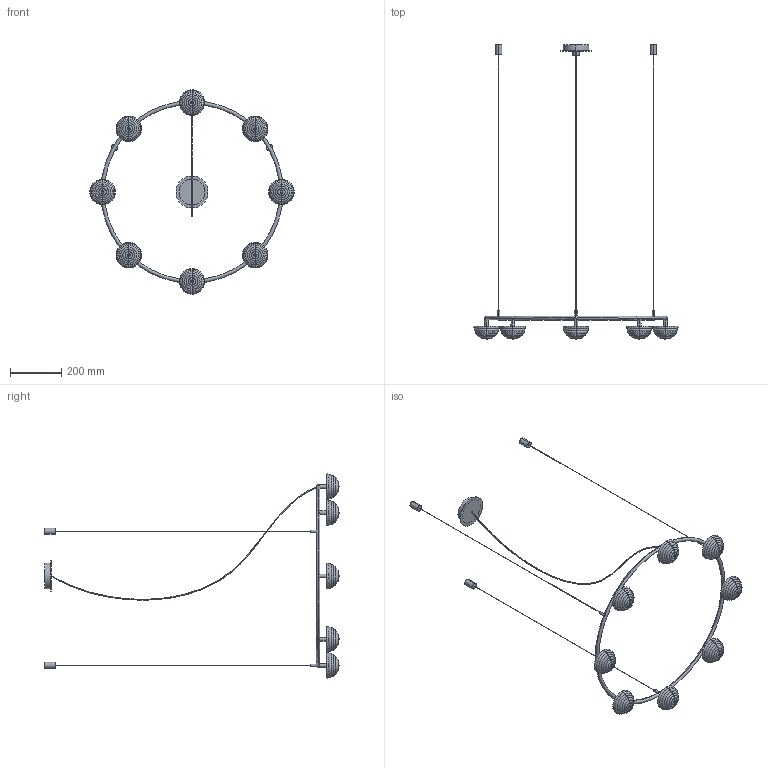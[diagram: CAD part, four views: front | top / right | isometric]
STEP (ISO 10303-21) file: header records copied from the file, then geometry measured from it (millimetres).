
FILE_DESCRIPTION (( 'STEP AP214' ), '1' );
FILE_NAME ('HADO_C1331_8.STEP', '2024-09-18T08:14:08', ( '' ), ( '' ), 'SwSTEP 2.0', 'SolidWorks 2018', '' );
FILE_SCHEMA (( 'AUTOMOTIVE_DESIGN' ));
Length unit declared in the file: millimetre
Products named in the file (1): HADO_C1331_8
Bounding box: 799.49 x 1152 x 799.49 mm (x, y, z)
Volume: 2522050.6 mm3; surface area: 413689.4 mm2
Topology: 20 solids, 20 shells, 289 faces, 566 edges, 340 vertices
Faces by surface type: torus 122, cylinder 86, plane 63, sphere 16, bspline 2
Entity records: 11910 total; most frequent: CARTESIAN_POINT 2252, DIRECTION 1562, ORIENTED_EDGE 1132, AXIS2_PLACEMENT_3D 738, EDGE_CURVE 566, CIRCLE 450, VERTEX_POINT 340, EDGE_LOOP 314
